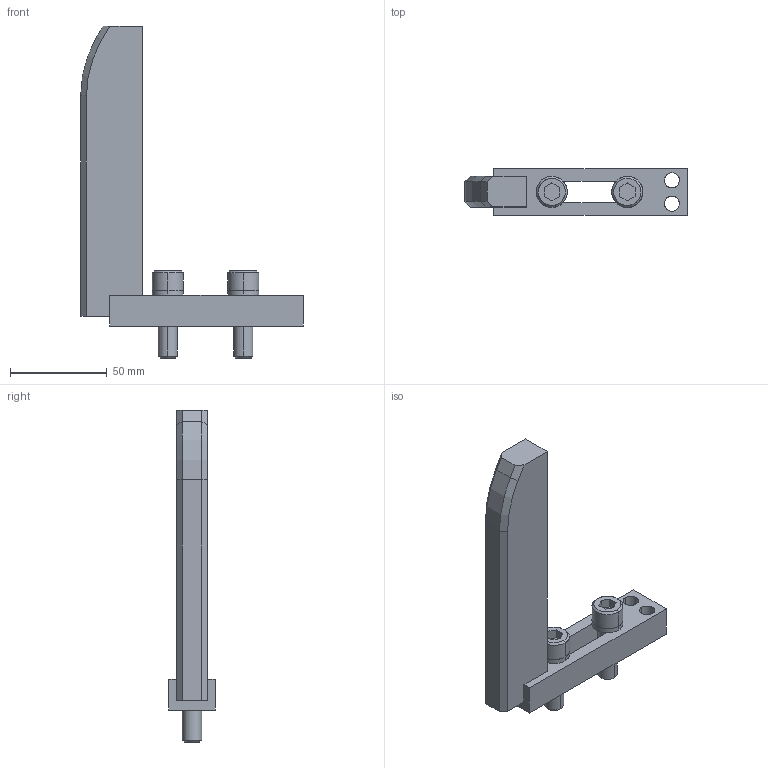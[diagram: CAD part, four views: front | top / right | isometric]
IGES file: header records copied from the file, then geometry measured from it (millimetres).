
Global section: file name: E:\UnigraphicsGraphicData\MISUMI_PRESS-PARTS\IGES\3d_ensta-155-20-m10_01417_r00.igs; native system: NX V5.0; preprocessor: UGS NX IGES V5.0; author: MISUMI; date: 20110105.160620; units: millimetre
Bounding box: 115 x 24 x 171.5 mm (x, y, z)
Surface area: 28368.3 mm2 (no closed solid volume)
Topology: 0 solids, 0 shells, 76 faces, 480 edges, 480 vertices
Faces by surface type: bspline 76
